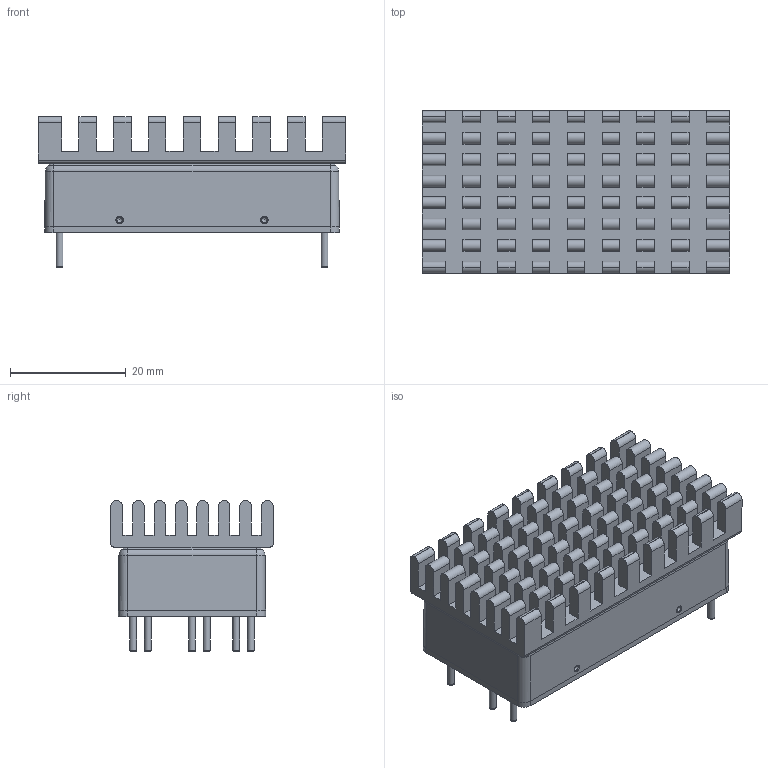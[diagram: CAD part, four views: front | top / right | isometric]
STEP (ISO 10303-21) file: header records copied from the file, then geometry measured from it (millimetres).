
FILE_DESCRIPTION(/* description */ (''),/* implementation_level */ '2;1');
FILE_NAME(/* name */ 'D:\Inventor\3D Files\200508\ST50F-X.stp',/* time_stamp */ '2020-04-23T11:37:27+08:00',/* author */ ('peter'),/* organization */ (''),/* preprocessor_version */ 'ST-DEVELOPER v15.2',/* originating_system */ 'Autodesk Inventor 2014',/* authorisation */ '');
FILE_SCHEMA (('AUTOMOTIVE_DESIGN { 1 0 10303 214 3 1 1 }'));
Length unit declared in the file: millimetre
Products named in the file (3): ST50F for 3D; HEATSINK _ 53x28x8 mm; ST50F-X for 3D
Bounding box: 53 x 28 x 26 mm (x, y, z)
Volume: 8408.2 mm3; surface area: 16105.5 mm2
Topology: 2 solids, 3 shells, 446 faces, 1142 edges, 754 vertices
Faces by surface type: plane 304, cylinder 116, torus 10, sphere 8, bspline 8
Full cylindrical faces by diameter (mm): 1.2 x12
Entity records: 13463 total; most frequent: CARTESIAN_POINT 2437, DIRECTION 2252, ORIENTED_EDGE 2216, EDGE_CURVE 1108, LINE 842, VECTOR 842, VERTEX_POINT 746, AXIS2_PLACEMENT_3D 705
